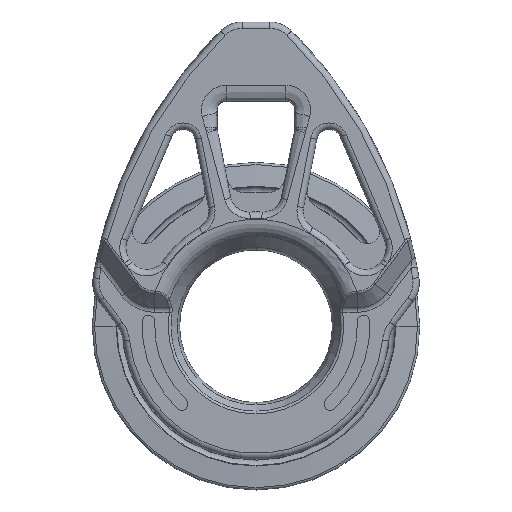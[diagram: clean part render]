
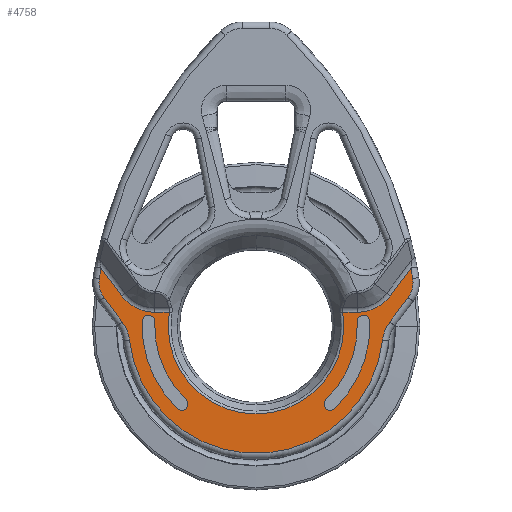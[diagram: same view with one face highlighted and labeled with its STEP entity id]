
A CAD part, top view. The second image highlights one B-rep face of the part: STEP entity #4758.
In plain terms, the highlighted planar face has unit normal (0, 0, 1).
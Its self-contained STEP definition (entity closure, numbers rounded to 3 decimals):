
#796=DIRECTION('',(0.599,0.801,0.));
#797=VECTOR('',#796,11.014);
#798=CARTESIAN_POINT('',(43.052,9.706,5.775));
#799=LINE('',#798,#797);
#805=CARTESIAN_POINT('',(0.,0.,5.775));
#806=DIRECTION('',(0.,0.,1.));
#807=DIRECTION('',(0.69,-0.724,0.));
#808=AXIS2_PLACEMENT_3D('',#805,#806,#807);
#810=CARTESIAN_POINT('',(34.467,1.5,5.775));
#811=DIRECTION('',(0.,0.,1.));
#812=DIRECTION('',(0.999,0.043,0.));
#813=AXIS2_PLACEMENT_3D('',#810,#811,#812);
#815=CARTESIAN_POINT('',(0.,0.,5.775));
#816=DIRECTION('',(0.,0.,1.));
#817=DIRECTION('',(0.69,-0.724,0.));
#818=AXIS2_PLACEMENT_3D('',#815,#816,#817);
#820=CARTESIAN_POINT('',(23.8,-24.976,5.775));
#821=DIRECTION('',(0.,0.,1.));
#822=DIRECTION('',(-0.69,0.724,0.));
#823=AXIS2_PLACEMENT_3D('',#820,#821,#822);
#825=CARTESIAN_POINT('',(-23.8,-24.976,5.775));
#826=DIRECTION('',(0.,0.,-1.));
#827=DIRECTION('',(0.69,0.724,0.));
#828=AXIS2_PLACEMENT_3D('',#825,#826,#827);
#830=CARTESIAN_POINT('',(0.,0.,5.775));
#831=DIRECTION('',(0.,0.,-1.));
#832=DIRECTION('',(-0.69,-0.724,0.));
#833=AXIS2_PLACEMENT_3D('',#830,#831,#832);
#835=CARTESIAN_POINT('',(-34.467,1.5,5.775));
#836=DIRECTION('',(0.,0.,-1.));
#837=DIRECTION('',(-0.999,0.043,0.));
#838=AXIS2_PLACEMENT_3D('',#835,#836,#837);
#840=CARTESIAN_POINT('',(0.,0.,5.775));
#841=DIRECTION('',(0.,0.,-1.));
#842=DIRECTION('',(-0.69,-0.724,0.));
#843=AXIS2_PLACEMENT_3D('',#840,#841,#842);
#845=CARTESIAN_POINT('',(89.888,-7.8,5.775));
#846=DIRECTION('',(0.,0.,1.));
#847=DIRECTION('',(-0.983,0.185,0.));
#848=AXIS2_PLACEMENT_3D('',#845,#846,#847);
#860=CARTESIAN_POINT('',(-42.334,13.953,5.775));
#861=DIRECTION('',(0.,0.,1.));
#862=DIRECTION('',(-0.987,0.162,0.));
#863=AXIS2_PLACEMENT_3D('',#860,#861,#862);
#875=DIRECTION('',(0.598,-0.801,0.));
#876=VECTOR('',#875,9.844);
#877=CARTESIAN_POINT('',(-48.744,9.167,5.775));
#878=LINE('',#877,#876);
#888=CARTESIAN_POINT('',(-52.469,-5.901,5.775));
#889=DIRECTION('',(0.,0.,-1.));
#890=DIRECTION('',(0.801,0.598,0.));
#891=AXIS2_PLACEMENT_3D('',#888,#889,#890);
#903=CARTESIAN_POINT('',(0.,0.,5.775));
#904=DIRECTION('',(0.,0.,1.));
#905=DIRECTION('',(-0.994,-0.112,0.));
#906=AXIS2_PLACEMENT_3D('',#903,#904,#905);
#918=CARTESIAN_POINT('',(52.469,-5.901,5.775));
#919=DIRECTION('',(0.,0.,-1.));
#920=DIRECTION('',(-0.994,0.112,0.));
#921=AXIS2_PLACEMENT_3D('',#918,#919,#920);
#933=DIRECTION('',(0.598,0.801,0.));
#934=VECTOR('',#933,9.844);
#935=CARTESIAN_POINT('',(42.854,1.279,5.775));
#936=LINE('',#935,#934);
#946=CARTESIAN_POINT('',(42.334,13.953,5.775));
#947=DIRECTION('',(0.,0.,1.));
#948=DIRECTION('',(0.801,-0.598,0.));
#949=AXIS2_PLACEMENT_3D('',#946,#947,#948);
#961=CARTESIAN_POINT('',(-89.888,-7.8,5.775));
#962=DIRECTION('',(0.,0.,1.));
#963=DIRECTION('',(0.987,0.162,0.));
#964=AXIS2_PLACEMENT_3D('',#961,#962,#963);
#2767=CARTESIAN_POINT('',(32.5,17.6,5.775));
#2768=DIRECTION('',(0.,0.,1.));
#2769=DIRECTION('',(0.,-1.,0.));
#2770=AXIS2_PLACEMENT_3D('',#2767,#2768,#2769);
#2772=DIRECTION('',(1.,0.,0.));
#2773=VECTOR('',#2772,4.699);
#2774=CARTESIAN_POINT('',(27.801,4.422,5.775));
#2775=LINE('',#2774,#2773);
#2776=DIRECTION('',(1.,0.,0.));
#2777=VECTOR('',#2776,4.699);
#2778=CARTESIAN_POINT('',(-32.5,4.422,5.775));
#2779=LINE('',#2778,#2777);
#2794=CARTESIAN_POINT('',(27.801,4.422,5.775));
#2818=CARTESIAN_POINT('',(0.,0.,5.775));
#2819=DIRECTION('',(0.,0.,-1.));
#2820=DIRECTION('',(0.988,0.157,0.));
#2821=AXIS2_PLACEMENT_3D('',#2818,#2819,#2820);
#2849=CARTESIAN_POINT('',(-27.801,4.422,5.775));
#2880=CARTESIAN_POINT('',(-32.5,17.6,5.775));
#2881=DIRECTION('',(0.,0.,1.));
#2882=DIRECTION('',(-0.801,-0.599,0.));
#2883=AXIS2_PLACEMENT_3D('',#2880,#2881,#2882);
#2885=DIRECTION('',(0.599,-0.801,0.));
#2886=VECTOR('',#2885,11.014);
#2887=CARTESIAN_POINT('',(-49.65,18.525,5.775));
#2888=LINE('',#2887,#2886);
#2894=CARTESIAN_POINT('',(-49.65,18.525,5.775));
#3007=CARTESIAN_POINT('',(-43.052,9.706,5.775));
#3009=VERTEX_POINT('',#3007);
#3011=CARTESIAN_POINT('',(-32.5,4.422,5.775));
#3013=VERTEX_POINT('',#3011);
#3015=CARTESIAN_POINT('',(32.5,4.422,5.775));
#3017=VERTEX_POINT('',#3015);
#3019=CARTESIAN_POINT('',(43.052,9.706,5.775));
#3021=VERTEX_POINT('',#3019);
#3528=VERTEX_POINT('',#2794);
#3535=VERTEX_POINT('',#2849);
#3551=VERTEX_POINT('',#2894);
#3553=CARTESIAN_POINT('',(-50.228,15.252,5.775));
#3554=VERTEX_POINT('',#3553);
#3557=CARTESIAN_POINT('',(-48.744,9.167,5.775));
#3558=VERTEX_POINT('',#3557);
#3561=CARTESIAN_POINT('',(-42.854,1.279,5.775));
#3562=VERTEX_POINT('',#3561);
#3565=CARTESIAN_POINT('',(-40.544,-4.56,
5.775));
#3566=VERTEX_POINT('',#3565);
#3569=CARTESIAN_POINT('',(40.544,-4.56,5.775));
#3570=VERTEX_POINT('',#3569);
#3573=CARTESIAN_POINT('',(42.854,1.279,5.775));
#3574=VERTEX_POINT('',#3573);
#3577=CARTESIAN_POINT('',(48.744,9.167,5.775));
#3578=VERTEX_POINT('',#3577);
#3581=CARTESIAN_POINT('',(50.228,15.252,5.775));
#3582=VERTEX_POINT('',#3581);
#3585=CARTESIAN_POINT('',(49.65,18.525,5.775));
#3586=VERTEX_POINT('',#3585);
#3649=CARTESIAN_POINT('',(25.18,-26.424,5.775));
#3650=CARTESIAN_POINT('',(36.465,1.587,5.775));
#3651=VERTEX_POINT('',#3649);
#3652=VERTEX_POINT('',#3650);
#3653=CARTESIAN_POINT('',(22.42,-23.528,5.775));
#3654=CARTESIAN_POINT('',(32.469,1.413,5.775));
#3655=VERTEX_POINT('',#3653);
#3656=VERTEX_POINT('',#3654);
#3665=CARTESIAN_POINT('',(-22.42,-23.528,5.775));
#3666=CARTESIAN_POINT('',(-25.18,-26.424,5.775));
#3667=VERTEX_POINT('',#3665);
#3668=VERTEX_POINT('',#3666);
#3669=CARTESIAN_POINT('',(-36.465,1.587,5.775));
#3670=VERTEX_POINT('',#3669);
#3671=CARTESIAN_POINT('',(-32.469,1.413,5.775));
#3672=VERTEX_POINT('',#3671);
#4700=CARTESIAN_POINT('',(-120.036,-4.889,5.775));
#4701=DIRECTION('',(0.,0.,-1.));
#4702=DIRECTION('',(0.801,0.599,0.));
#4703=AXIS2_PLACEMENT_3D('',#4700,#4701,#4702);
#4704=PLANE('',#4703);
#4706=ORIENTED_EDGE('',*,*,#4705,.F.);
#4708=ORIENTED_EDGE('',*,*,#4707,.T.);
#4710=ORIENTED_EDGE('',*,*,#4709,.T.);
#4712=ORIENTED_EDGE('',*,*,#4711,.T.);
#4714=ORIENTED_EDGE('',*,*,#4713,.F.);
#4716=ORIENTED_EDGE('',*,*,#4715,.T.);
#4718=ORIENTED_EDGE('',*,*,#4717,.T.);
#4719=ORIENTED_EDGE('',*,*,#4692,.T.);
#4721=ORIENTED_EDGE('',*,*,#4720,.F.);
#4723=ORIENTED_EDGE('',*,*,#4722,.F.);
#4725=ORIENTED_EDGE('',*,*,#4724,.F.);
#4727=ORIENTED_EDGE('',*,*,#4726,.F.);
#4729=ORIENTED_EDGE('',*,*,#4728,.F.);
#4731=ORIENTED_EDGE('',*,*,#4730,.F.);
#4733=ORIENTED_EDGE('',*,*,#4732,.F.);
#4735=ORIENTED_EDGE('',*,*,#4734,.F.);
#4736=EDGE_LOOP('',(#4706,#4708,#4710,#4712,#4714,#4716,#4718,#4719,#4721,#4723,
#4725,#4727,#4729,#4731,#4733,#4735));
#4737=FACE_OUTER_BOUND('',#4736,.F.);
#4739=ORIENTED_EDGE('',*,*,#4738,.T.);
#4741=ORIENTED_EDGE('',*,*,#4740,.T.);
#4743=ORIENTED_EDGE('',*,*,#4742,.F.);
#4745=ORIENTED_EDGE('',*,*,#4744,.T.);
#4746=EDGE_LOOP('',(#4739,#4741,#4743,#4745));
#4747=FACE_BOUND('',#4746,.F.);
#4749=ORIENTED_EDGE('',*,*,#4748,.F.);
#4751=ORIENTED_EDGE('',*,*,#4750,.T.);
#4753=ORIENTED_EDGE('',*,*,#4752,.F.);
#4755=ORIENTED_EDGE('',*,*,#4754,.F.);
#4756=EDGE_LOOP('',(#4749,#4751,#4753,#4755));
#4757=FACE_BOUND('',#4756,.F.);
#4758=ADVANCED_FACE('',(#4737,#4747,#4757),#4704,.F.);
#809=CIRCLE('',#808,36.5);
#814=CIRCLE('',#813,2.);
#819=CIRCLE('',#818,32.5);
#824=CIRCLE('',#823,2.);
#829=CIRCLE('',#828,2.);
#834=CIRCLE('',#833,32.5);
#839=CIRCLE('',#838,2.);
#844=CIRCLE('',#843,36.5);
#849=CIRCLE('',#848,142.);
#864=CIRCLE('',#863,8.);
#892=CIRCLE('',#891,12.);
#907=CIRCLE('',#906,40.8);
#922=CIRCLE('',#921,12.);
#950=CIRCLE('',#949,8.);
#965=CIRCLE('',#964,142.);
#2771=CIRCLE('',#2770,13.178);
#2822=CIRCLE('',#2821,28.151);
#2884=CIRCLE('',#2883,13.178);
#4692=EDGE_CURVE('',#3021,#3586,#799,.T.);
#4705=EDGE_CURVE('',#3551,#3554,#849,.T.);
#4707=EDGE_CURVE('',#3551,#3009,#2888,.T.);
#4709=EDGE_CURVE('',#3009,#3013,#2884,.T.);
#4711=EDGE_CURVE('',#3013,#3535,#2779,.T.);
#4713=EDGE_CURVE('',#3528,#3535,#2822,.T.);
#4715=EDGE_CURVE('',#3528,#3017,#2775,.T.);
#4717=EDGE_CURVE('',#3017,#3021,#2771,.T.);
#4720=EDGE_CURVE('',#3582,#3586,#965,.T.);
#4722=EDGE_CURVE('',#3578,#3582,#950,.T.);
#4724=EDGE_CURVE('',#3574,#3578,#936,.T.);
#4726=EDGE_CURVE('',#3570,#3574,#922,.T.);
#4728=EDGE_CURVE('',#3566,#3570,#907,.T.);
#4730=EDGE_CURVE('',#3562,#3566,#892,.T.);
#4732=EDGE_CURVE('',#3558,#3562,#878,.T.);
#4734=EDGE_CURVE('',#3554,#3558,#864,.T.);
#4738=EDGE_CURVE('',#3651,#3652,#809,.T.);
#4740=EDGE_CURVE('',#3652,#3656,#814,.T.);
#4742=EDGE_CURVE('',#3655,#3656,#819,.T.);
#4744=EDGE_CURVE('',#3655,#3651,#824,.T.);
#4748=EDGE_CURVE('',#3667,#3668,#829,.T.);
#4750=EDGE_CURVE('',#3667,#3672,#834,.T.);
#4752=EDGE_CURVE('',#3670,#3672,#839,.T.);
#4754=EDGE_CURVE('',#3668,#3670,#844,.T.);
